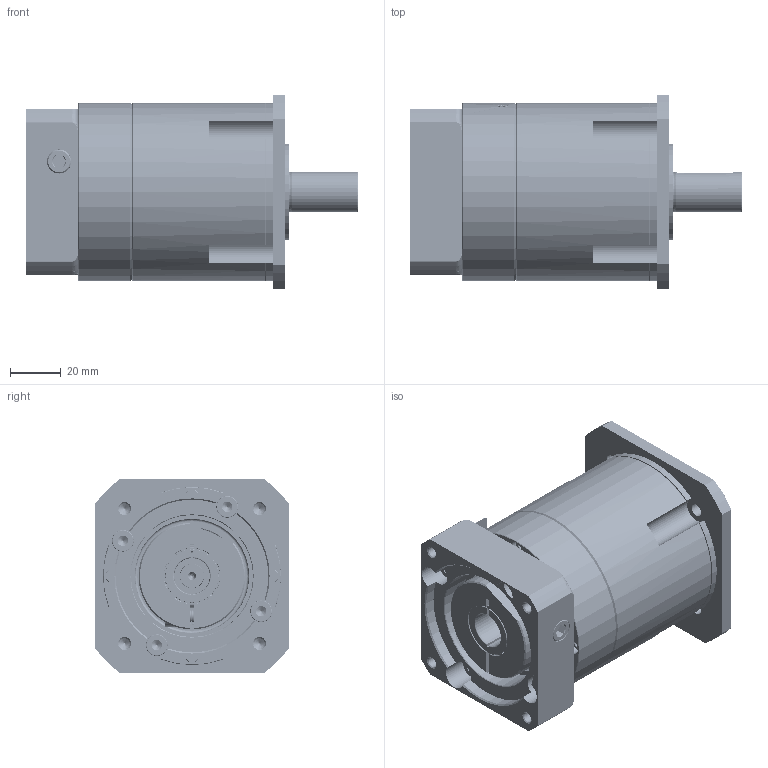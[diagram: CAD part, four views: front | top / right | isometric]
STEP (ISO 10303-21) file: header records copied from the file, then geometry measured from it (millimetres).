
FILE_DESCRIPTION (( 'STEP AP214' ), '1' );
FILE_NAME ('LH-023-005-P01-S01-S-SL-064-A03-0000-0RR-FFF-MMM-S-LL-XXX-AXX-0000-Default.step', '2025-02-26T18:28:03', ( '' ), ( '' ), 'SwSTEP 2.0', 'SolidWorks 2019', '' );
FILE_SCHEMA (( 'AUTOMOTIVE_DESIGN' ));
Length unit declared in the file: millimetre
Products named in the file (37): 6205 2XCS_DEFAULT; 9001417-00XX_9001417-00XX; O-Ring 52 x 2_Male Gland 55x52x2.7; 5003038-X00X_5003038-1001; 5000792-000X_Solid; 9002652-XXXX_9002652-9XXX; LH-023-005-P01-S01-S-SL-064-A03-0000-0RR-FFF-MMM-S-LL-XXX-AXX-0000-Default; collar, 19 mm input, stop shoulder; 5001282; 5000789_ISO 4762 M5 x 12 --- 12 -- 12.9 -- black; EH-47_EH-47 internal retaining ring; 9000239-000X_9000239-0001; 130-02906; 400-00023; Circlip DIN 472 - 52 x 2; 9003569-000X_9003569-00XX; 4001306_91290A123; interface extension, single stage, LH-010_Black Anodize; 5000698; 5003446-X0XX_Generic; ISO 4762 M5 x 16 --- 16 -- 12.9 -- black; 4001379; input shaft, single stage, AH-010, LH-010_i=3, 4, 5; 9001419-X0XX_9001419-X0XX; 500-03109; Circlip DIN 471 - 25 x 1.2; Wave spring washer for bearings 42 x 51 x 0.5_Working Thickness 0.8; 5003044-0XXX_i=4, keyway; 4000390_4000390; O-Ring 47 x 2_Male Gland 47x50x2.8; 5001279; 5001642-00XX_Generic; 530-02409_Working Thickness 1.0; Label Model Family_Onvio Header; 5000710
Assembly tree (102 placements, depth 5):
  LH-023-005-P01-S01-S-SL-064-A03-0000-0RR-FFF-MMM-S-LL-XXX-AXX-0000-Default
    9002652-XXXX_9002652-9XXX
      5003038-X00X_5003038-1001
      9003569-000X_9003569-00XX
        interface extension, single stage, LH-010_Black Anodize
        O-Ring 47 x 2_Male Gland 47x50x2.8
        collar, 19 mm input, stop shoulder
        ISO 4762 M5 x 16 --- 16 -- 12.9 -- black
        530-02409_Working Thickness 1.0
        EH-47_EH-47 internal retaining ring
        9001417-00XX_9001417-00XX
          input shaft, single stage, AH-010, LH-010_i=3, 4, 5
          5000710
          400-00023
          Circlip DIN 471 - 25 x 1.2
      9001419-X0XX_9001419-X0XX
        5003044-0XXX_i=4, keyway
        9000239-000X_9000239-0001
          5000792-000X_Solid
          5000698
          5001279  x14
          5001282  x2
        9000239-000X_9000239-0001
          5000792-000X_Solid
          5000698
          5001279  x14
          5001282  x2
        9000239-000X_9000239-0001
          5000792-000X_Solid
          5000698
          5001279  x14
          5001282  x2
      6205 2XCS_DEFAULT  x2
      Circlip DIN 472 - 52 x 2
      Circlip DIN 471 - 25 x 1.2
      Wave spring washer for bearings 42 x 51 x 0.5_Working Thickness 0.8
      O-Ring 52 x 2_Male Gland 55x52x2.7
      4001306_91290A123  x8
      4000390_4000390
    5003446-X0XX_Generic
    5001642-00XX_Generic
    5000789_ISO 4762 M5 x 12 --- 12 -- 12.9 -- black  x4
    4001379  x2
    Label Model Family_Onvio Header
    130-02906
    500-03109  x4
Bounding box: 130.5 x 76 x 76 mm (x, y, z)
Volume: 319858.5 mm3; surface area: 175954.2 mm2
Topology: 96 solids, 100 shells, 5872 faces, 15738 edges, 10155 vertices
Faces by surface type: cylinder 1768, plane 1389, bspline 1183, cone 784, torus 720, sphere 28
Entity records: 168147 total; most frequent: CARTESIAN_POINT 69386, ORIENTED_EDGE 19154, DIRECTION 14411, EDGE_CURVE 9577, VERTEX_POINT 6235, AXIS2_PLACEMENT_3D 5313, EDGE_LOOP 3844, VECTOR 3785
